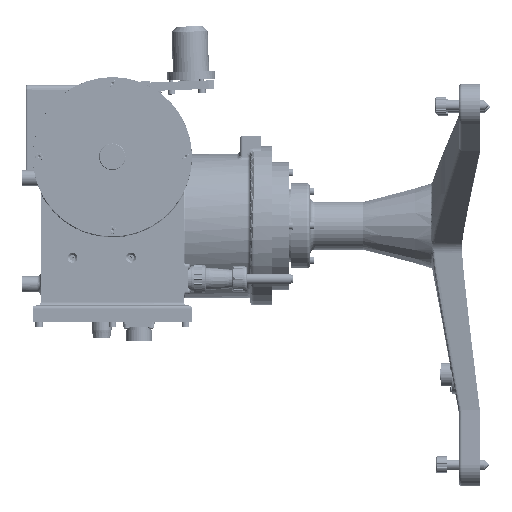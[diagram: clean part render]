
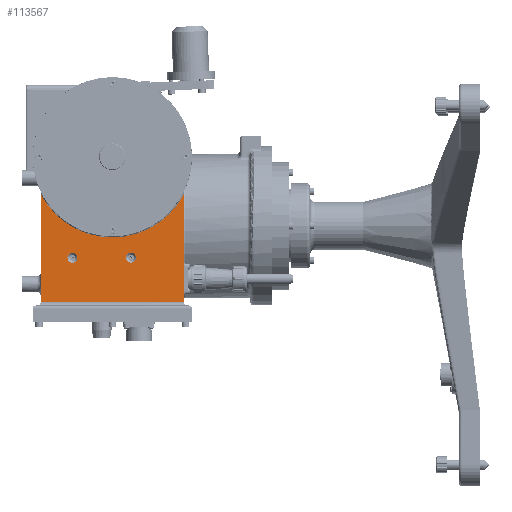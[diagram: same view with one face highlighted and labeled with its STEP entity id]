
A CAD part, left-side view. The second image highlights one B-rep face of the part: STEP entity #113567.
In plain terms, the highlighted planar face has unit normal (-1, 0, 0).
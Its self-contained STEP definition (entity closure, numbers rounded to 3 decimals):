
#33 = FACE_BOUND ( 'NONE', #117269, .T. ) ;
#2766 = DIRECTION ( 'NONE',  ( 0., 0., -1. ) ) ;
#4454 = CARTESIAN_POINT ( 'NONE',  ( -123.494, -17.499, -30. ) ) ;
#5708 = DIRECTION ( 'NONE',  ( 1., 0., 0. ) ) ;
#6139 = ORIENTED_EDGE ( 'NONE', *, *, #130230, .F. ) ;
#7417 = AXIS2_PLACEMENT_3D ( 'NONE', #93086, #5708, #2766 ) ;
#8052 = VERTEX_POINT ( 'NONE', #30646 ) ;
#8572 = ORIENTED_EDGE ( 'NONE', *, *, #15214, .T. ) ;
#8888 = CARTESIAN_POINT ( 'NONE',  ( -123.494, 0., -11. ) ) ;
#9964 = VECTOR ( 'NONE', #144323, 1000. ) ;
#11944 = CARTESIAN_POINT ( 'NONE',  ( -123.494, -67.501, 30.077 ) ) ;
#11997 = FACE_BOUND ( 'NONE', #103633, .T. ) ;
#13526 = DIRECTION ( 'NONE',  ( 0., 0., -1. ) ) ;
#14083 = CARTESIAN_POINT ( 'NONE',  ( -123.494, -17.499, -34.7 ) ) ;
#14628 = VERTEX_POINT ( 'NONE', #8888 ) ;
#15214 = EDGE_CURVE ( 'NONE', #14628, #134890, #148985, .T. ) ;
#16137 = CARTESIAN_POINT ( 'NONE',  ( -123.494, 37.501, -25.3 ) ) ;
#21591 = ORIENTED_EDGE ( 'NONE', *, *, #127870, .T. ) ;
#22021 = LINE ( 'NONE', #97429, #148795 ) ;
#22239 = VERTEX_POINT ( 'NONE', #33300 ) ;
#28110 = CARTESIAN_POINT ( 'NONE',  ( -123.494, 0., 65. ) ) ;
#30646 = CARTESIAN_POINT ( 'NONE',  ( -123.494, -67.501, -72. ) ) ;
#31596 = VECTOR ( 'NONE', #77653, 1000. ) ;
#33136 = CARTESIAN_POINT ( 'NONE',  ( -123.494, 67.501, -58.202 ) ) ;
#33300 = CARTESIAN_POINT ( 'NONE',  ( -123.494, 67.501, -72. ) ) ;
#37313 = AXIS2_PLACEMENT_3D ( 'NONE', #146801, #57409, #89104 ) ;
#37323 = CARTESIAN_POINT ( 'NONE',  ( -123.494, 37.501, -34.7 ) ) ;
#40722 = CARTESIAN_POINT ( 'NONE',  ( -123.494, 67.501, -51.798 ) ) ;
#43378 = VERTEX_POINT ( 'NONE', #130708 ) ;
#46172 = EDGE_CURVE ( 'NONE', #87570, #182957, #97493, .T. ) ;
#50150 = DIRECTION ( 'NONE',  ( 0., 0., 1. ) ) ;
#52641 = ORIENTED_EDGE ( 'NONE', *, *, #53808, .T. ) ;
#53034 = DIRECTION ( 'NONE',  ( -1., 0., 0. ) ) ;
#53808 = EDGE_CURVE ( 'NONE', #134890, #87570, #22021, .T. ) ;
#54090 = ORIENTED_EDGE ( 'NONE', *, *, #46172, .T. ) ;
#57409 = DIRECTION ( 'NONE',  ( -1., 0., 0. ) ) ;
#63336 = AXIS2_PLACEMENT_3D ( 'NONE', #28110, #160291, #191068 ) ;
#64945 = ORIENTED_EDGE ( 'NONE', *, *, #114454, .F. ) ;
#66552 = VERTEX_POINT ( 'NONE', #37323 ) ;
#67079 = CIRCLE ( 'NONE', #121040, 4.7 ) ;
#70529 = CIRCLE ( 'NONE', #108590, 4.7 ) ;
#72491 = CARTESIAN_POINT ( 'NONE',  ( -123.494, 0., 65. ) ) ;
#74687 = CARTESIAN_POINT ( 'NONE',  ( -123.494, -67.501, -85. ) ) ;
#77097 = CIRCLE ( 'NONE', #7417, 76. ) ;
#77653 = DIRECTION ( 'NONE',  ( 0., 0., 1. ) ) ;
#80801 = ORIENTED_EDGE ( 'NONE', *, *, #157146, .F. ) ;
#82079 = AXIS2_PLACEMENT_3D ( 'NONE', #107319, #92390, #153021 ) ;
#82604 = CARTESIAN_POINT ( 'NONE',  ( -123.494, 67.501, -85. ) ) ;
#87424 = ORIENTED_EDGE ( 'NONE', *, *, #159605, .T. ) ;
#87570 = VERTEX_POINT ( 'NONE', #40722 ) ;
#89104 = DIRECTION ( 'NONE',  ( 0., 0., 1. ) ) ;
#92390 = DIRECTION ( 'NONE',  ( -1., 0., 0. ) ) ;
#93086 = CARTESIAN_POINT ( 'NONE',  ( -123.494, 0., 65. ) ) ;
#97429 = CARTESIAN_POINT ( 'NONE',  ( -123.494, 67.501, -85. ) ) ;
#97493 = LINE ( 'NONE', #82604, #155882 ) ;
#100569 = CARTESIAN_POINT ( 'NONE',  ( -123.494, 37.501, -30. ) ) ;
#101777 = AXIS2_PLACEMENT_3D ( 'NONE', #72491, #103279, #165880 ) ;
#102363 = ORIENTED_EDGE ( 'NONE', *, *, #162157, .T. ) ;
#102577 = EDGE_CURVE ( 'NONE', #145948, #66552, #119842, .T. ) ;
#103279 = DIRECTION ( 'NONE',  ( 1., 0., 0. ) ) ;
#103633 = EDGE_LOOP ( 'NONE', ( #80801, #64945 ) ) ;
#104267 = FACE_OUTER_BOUND ( 'NONE', #191346, .T. ) ;
#107319 = CARTESIAN_POINT ( 'NONE',  ( -123.494, -17.499, -30. ) ) ;
#108590 = AXIS2_PLACEMENT_3D ( 'NONE', #100569, #53034, #161211 ) ;
#109457 = DIRECTION ( 'NONE',  ( 0., 0., -1. ) ) ;
#113567 = ADVANCED_FACE ( 'NONE', ( #33, #11997, #104267 ), #180854, .F. ) ;
#114454 = EDGE_CURVE ( 'NONE', #143423, #43378, #67079, .T. ) ;
#117269 = EDGE_LOOP ( 'NONE', ( #189885, #6139 ) ) ;
#119842 = CIRCLE ( 'NONE', #37313, 4.7 ) ;
#121040 = AXIS2_PLACEMENT_3D ( 'NONE', #4454, #127570, #50150 ) ;
#123448 = CIRCLE ( 'NONE', #82079, 4.7 ) ;
#126592 = VECTOR ( 'NONE', #13526, 1000. ) ;
#127570 = DIRECTION ( 'NONE',  ( -1., 0., 0. ) ) ;
#127870 = EDGE_CURVE ( 'NONE', #182957, #22239, #164464, .T. ) ;
#129194 = VERTEX_POINT ( 'NONE', #11944 ) ;
#129320 = DIRECTION ( 'NONE',  ( 0., 0., -1. ) ) ;
#130230 = EDGE_CURVE ( 'NONE', #66552, #145948, #70529, .T. ) ;
#130708 = CARTESIAN_POINT ( 'NONE',  ( -123.494, -17.499, -25.3 ) ) ;
#131346 = CARTESIAN_POINT ( 'NONE',  ( -123.494, -67.501, -72. ) ) ;
#134890 = VERTEX_POINT ( 'NONE', #144555 ) ;
#138311 = LINE ( 'NONE', #74687, #31596 ) ;
#138685 = ORIENTED_EDGE ( 'NONE', *, *, #172996, .T. ) ;
#143423 = VERTEX_POINT ( 'NONE', #14083 ) ;
#144323 = DIRECTION ( 'NONE',  ( 0., -1., 0. ) ) ;
#144555 = CARTESIAN_POINT ( 'NONE',  ( -123.494, 67.501, 30.077 ) ) ;
#145948 = VERTEX_POINT ( 'NONE', #16137 ) ;
#146801 = CARTESIAN_POINT ( 'NONE',  ( -123.494, 37.501, -30. ) ) ;
#147236 = LINE ( 'NONE', #131346, #9964 ) ;
#148795 = VECTOR ( 'NONE', #109457, 1000. ) ;
#148985 = CIRCLE ( 'NONE', #63336, 76. ) ;
#153021 = DIRECTION ( 'NONE',  ( 0., 0., 1. ) ) ;
#155882 = VECTOR ( 'NONE', #129320, 1000. ) ;
#157146 = EDGE_CURVE ( 'NONE', #43378, #143423, #123448, .T. ) ;
#159605 = EDGE_CURVE ( 'NONE', #22239, #8052, #147236, .T. ) ;
#160291 = DIRECTION ( 'NONE',  ( 1., 0., 0. ) ) ;
#161211 = DIRECTION ( 'NONE',  ( 0., 0., 1. ) ) ;
#162157 = EDGE_CURVE ( 'NONE', #129194, #14628, #77097, .T. ) ;
#164464 = LINE ( 'NONE', #178438, #126592 ) ;
#165880 = DIRECTION ( 'NONE',  ( 0., 0., -1. ) ) ;
#172996 = EDGE_CURVE ( 'NONE', #8052, #129194, #138311, .T. ) ;
#178438 = CARTESIAN_POINT ( 'NONE',  ( -123.494, 67.501, -85. ) ) ;
#180854 = PLANE ( 'NONE',  #101777 ) ;
#182957 = VERTEX_POINT ( 'NONE', #33136 ) ;
#189885 = ORIENTED_EDGE ( 'NONE', *, *, #102577, .F. ) ;
#191068 = DIRECTION ( 'NONE',  ( 0., 0., -1. ) ) ;
#191346 = EDGE_LOOP ( 'NONE', ( #138685, #102363, #8572, #52641, #54090, #21591, #87424 ) ) ;
